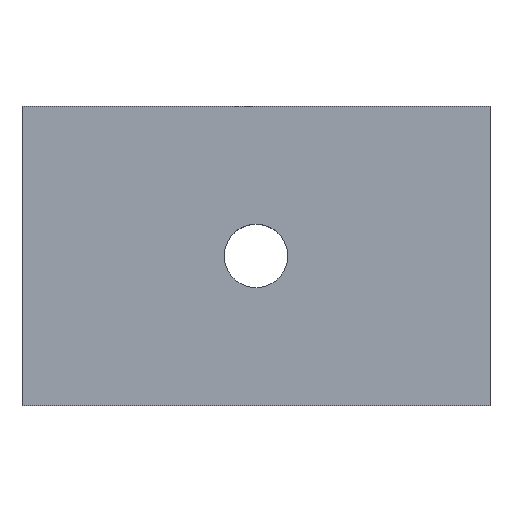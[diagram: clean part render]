
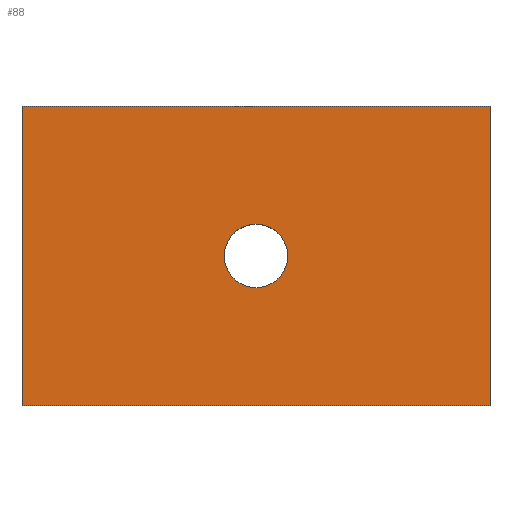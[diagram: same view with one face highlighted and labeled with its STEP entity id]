
A CAD part, top view. The second image highlights one B-rep face of the part: STEP entity #88.
In plain terms, the highlighted planar face has unit normal (0, 0, 1).
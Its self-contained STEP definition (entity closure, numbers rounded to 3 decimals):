
#24 = VERTEX_POINT('',#25);
#25 = CARTESIAN_POINT('',(-12.5,-8.,5.));
#40 = VERTEX_POINT('',#41);
#41 = CARTESIAN_POINT('',(-12.5,8.,5.));
#47 = EDGE_CURVE('',#24,#40,#48,.T.);
#48 = LINE('',#49,#50);
#49 = CARTESIAN_POINT('',(-12.5,-8.,5.));
#50 = VECTOR('',#51,1.);
#51 = DIRECTION('',(0.,1.,0.));
#70 = EDGE_CURVE('',#24,#71,#73,.T.);
#71 = VERTEX_POINT('',#72);
#72 = CARTESIAN_POINT('',(12.5,-8.,5.));
#73 = LINE('',#74,#75);
#74 = CARTESIAN_POINT('',(-12.5,-8.,5.));
#75 = VECTOR('',#76,1.);
#76 = DIRECTION('',(1.,0.,0.));
#88 = ADVANCED_FACE('',(#89,#107),#118,.T.);
#89 = FACE_BOUND('',#90,.T.);
#90 = EDGE_LOOP('',(#91,#92,#93,#101));
#91 = ORIENTED_EDGE('',*,*,#47,.F.);
#92 = ORIENTED_EDGE('',*,*,#70,.T.);
#93 = ORIENTED_EDGE('',*,*,#94,.T.);
#94 = EDGE_CURVE('',#71,#95,#97,.T.);
#95 = VERTEX_POINT('',#96);
#96 = CARTESIAN_POINT('',(12.5,8.,5.));
#97 = LINE('',#98,#99);
#98 = CARTESIAN_POINT('',(12.5,-8.,5.));
#99 = VECTOR('',#100,1.);
#100 = DIRECTION('',(0.,1.,0.));
#101 = ORIENTED_EDGE('',*,*,#102,.F.);
#102 = EDGE_CURVE('',#40,#95,#103,.T.);
#103 = LINE('',#104,#105);
#104 = CARTESIAN_POINT('',(-12.5,8.,5.));
#105 = VECTOR('',#106,1.);
#106 = DIRECTION('',(1.,0.,0.));
#107 = FACE_BOUND('',#108,.T.);
#108 = EDGE_LOOP('',(#109));
#109 = ORIENTED_EDGE('',*,*,#110,.F.);
#110 = EDGE_CURVE('',#111,#111,#113,.T.);
#111 = VERTEX_POINT('',#112);
#112 = CARTESIAN_POINT('',(1.7,0.,5.));
#113 = CIRCLE('',#114,1.7);
#114 = AXIS2_PLACEMENT_3D('',#115,#116,#117);
#115 = CARTESIAN_POINT('',(0.,0.,5.));
#116 = DIRECTION('',(0.,0.,1.));
#117 = DIRECTION('',(1.,0.,0.));
#118 = PLANE('',#119);
#119 = AXIS2_PLACEMENT_3D('',#120,#121,#122);
#120 = CARTESIAN_POINT('',(-12.5,-8.,5.));
#121 = DIRECTION('',(0.,0.,1.));
#122 = DIRECTION('',(1.,0.,0.));
